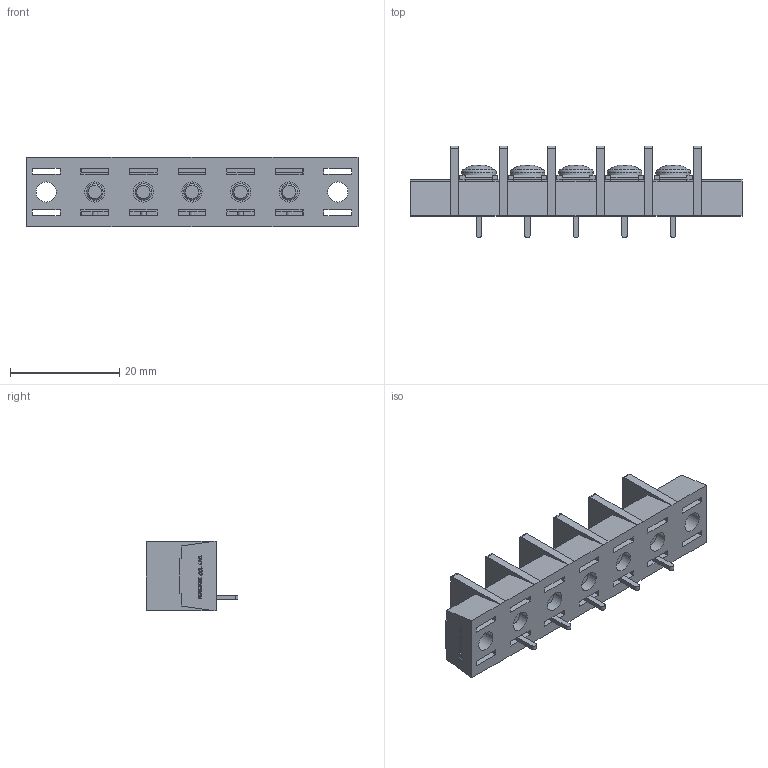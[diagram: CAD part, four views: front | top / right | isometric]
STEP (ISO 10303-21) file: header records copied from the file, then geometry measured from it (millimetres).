
FILE_DESCRIPTION(/* description */ ('Alibre Inc.'),/* implementation_level */ '2;1');
FILE_NAME(/* name */ 'export0',/* time_stamp */ '2015-10-20T08:21:28+09:00',/* author */ (''),/* organization */ (''),/* preprocessor_version */ 'ST-DEVELOPER v14',/* originating_system */ 'Alibre',/* authorisation */ '');
FILE_SCHEMA (('CONFIG_CONTROL_DESIGN'));
Length unit declared in the file: centimetre
Products named in the file (1): ID_1
Bounding box: 60.74 x 16.8 x 12.8 mm (x, y, z)
Volume: 5164.6 mm3; surface area: 6397.9 mm2
Topology: 1 solids, 86 shells, 1817 faces, 4687 edges, 3104 vertices
Faces by surface type: plane 1357, bspline 364, cylinder 56, cone 25, torus 10, sphere 5
Full cylindrical faces by diameter (mm): 3 x10, 3.7 x7, 4.6 x7, 6.3 x5
Entity records: 52818 total; most frequent: CARTESIAN_POINT 12822, ORIENTED_EDGE 9252, DIRECTION 5496, EDGE_CURVE 4626, VECTOR 3579, LINE 3579, VERTEX_POINT 3087, EDGE_LOOP 2005
